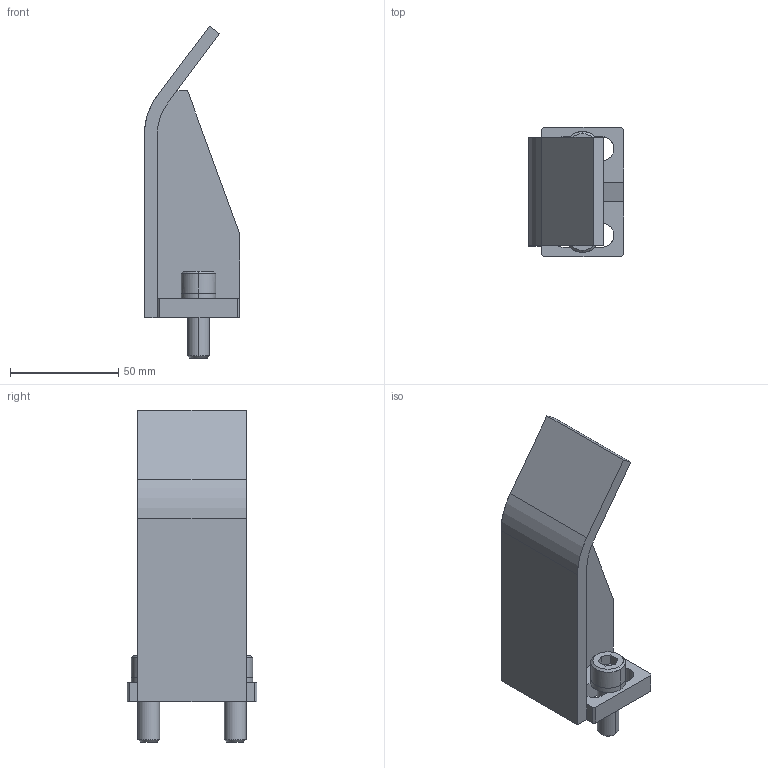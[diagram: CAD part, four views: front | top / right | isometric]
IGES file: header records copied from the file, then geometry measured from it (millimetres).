
Global section: file name: E:\UnigraphicsGraphicData\MISUMI_PRESS-PARTS\IGES\3d_nstfa-95-m10_01623_r00.igs; native system: NX V5.0; preprocessor: UGS NX IGES V5.0; author: MISUMI; date: 20110105.162130; units: millimetre
Bounding box: 44 x 60 x 153.5 mm (x, y, z)
Surface area: 32113.1 mm2 (no closed solid volume)
Topology: 0 solids, 0 shells, 83 faces, 516 edges, 516 vertices
Faces by surface type: bspline 83
